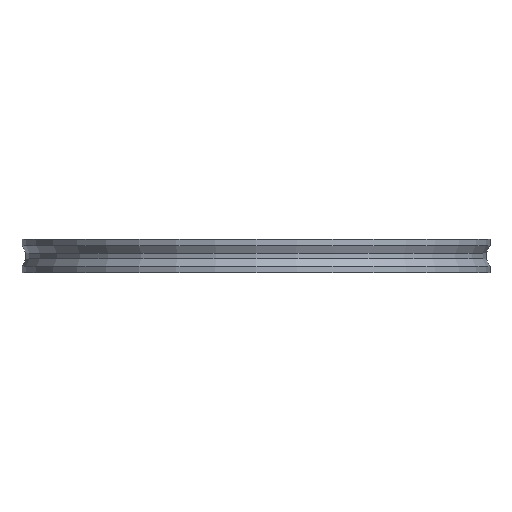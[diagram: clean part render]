
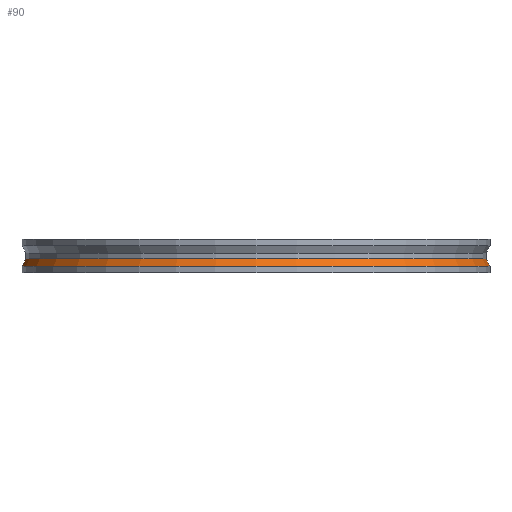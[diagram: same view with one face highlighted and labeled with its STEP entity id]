
A CAD part, front view. The second image highlights one B-rep face of the part: STEP entity #90.
In plain terms, the highlighted conical face has half-angle 27.5 degrees and reference radius 41.5 mm.
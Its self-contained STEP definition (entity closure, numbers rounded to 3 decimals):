
#16 = ORIENTED_EDGE ( 'NONE', *, *, #64, .T. ) ;
#48 = EDGE_CURVE ( 'NONE', #550, #880, #198, .T. ) ;
#64 = EDGE_CURVE ( 'NONE', #550, #540, #673, .T. ) ;
#66 = CARTESIAN_POINT ( 'NONE',  ( 40.8, 0., -3.5 ) ) ;
#67 = DIRECTION ( 'NONE',  ( 1., 0., 0. ) ) ;
#75 = DIRECTION ( 'NONE',  ( -1., 0., 0. ) ) ;
#87 = AXIS2_PLACEMENT_3D ( 'NONE', #507, #382, #75 ) ;
#90 = ADVANCED_FACE ( 'NONE', ( #304 ), #152, .T. ) ;
#92 = CARTESIAN_POINT ( 'NONE',  ( -41.5, 0., -4.845 ) ) ;
#142 = DIRECTION ( 'NONE',  ( 0., 0., 1. ) ) ;
#152 = CONICAL_SURFACE ( 'NONE', #87, 41.5, 0.48 ) ;
#162 = LINE ( 'NONE', #665, #750 ) ;
#198 = CIRCLE ( 'NONE', #882, 40.8 ) ;
#207 = EDGE_LOOP ( 'NONE', ( #777, #259, #16, #611 ) ) ;
#259 = ORIENTED_EDGE ( 'NONE', *, *, #48, .F. ) ;
#261 = CARTESIAN_POINT ( 'NONE',  ( 41.5, 0., -4.845 ) ) ;
#296 = CARTESIAN_POINT ( 'NONE',  ( 0., 0., -3.5 ) ) ;
#304 = FACE_OUTER_BOUND ( 'NONE', #207, .T. ) ;
#369 = CARTESIAN_POINT ( 'NONE',  ( -41.5, 0., -4.845 ) ) ;
#382 = DIRECTION ( 'NONE',  ( 0., 0., -1. ) ) ;
#386 = VECTOR ( 'NONE', #445, 1000. ) ;
#445 = DIRECTION ( 'NONE',  ( -0.462, 0., -0.887 ) ) ;
#450 = DIRECTION ( 'NONE',  ( 1., 0., 0. ) ) ;
#474 = EDGE_CURVE ( 'NONE', #540, #716, #565, .T. ) ;
#507 = CARTESIAN_POINT ( 'NONE',  ( 0., 0., -4.845 ) ) ;
#531 = AXIS2_PLACEMENT_3D ( 'NONE', #719, #142, #67 ) ;
#540 = VERTEX_POINT ( 'NONE', #92 ) ;
#550 = VERTEX_POINT ( 'NONE', #672 ) ;
#565 = CIRCLE ( 'NONE', #531, 41.5 ) ;
#589 = DIRECTION ( 'NONE',  ( 0., 0., 1. ) ) ;
#611 = ORIENTED_EDGE ( 'NONE', *, *, #474, .T. ) ;
#665 = CARTESIAN_POINT ( 'NONE',  ( 41.5, 0., -4.845 ) ) ;
#672 = CARTESIAN_POINT ( 'NONE',  ( -40.8, 0., -3.5 ) ) ;
#673 = LINE ( 'NONE', #369, #386 ) ;
#716 = VERTEX_POINT ( 'NONE', #261 ) ;
#719 = CARTESIAN_POINT ( 'NONE',  ( 0., 0., -4.845 ) ) ;
#750 = VECTOR ( 'NONE', #804, 1000. ) ;
#777 = ORIENTED_EDGE ( 'NONE', *, *, #801, .F. ) ;
#801 = EDGE_CURVE ( 'NONE', #880, #716, #162, .T. ) ;
#804 = DIRECTION ( 'NONE',  ( 0.462, 0., -0.887 ) ) ;
#880 = VERTEX_POINT ( 'NONE', #66 ) ;
#882 = AXIS2_PLACEMENT_3D ( 'NONE', #296, #589, #450 ) ;
